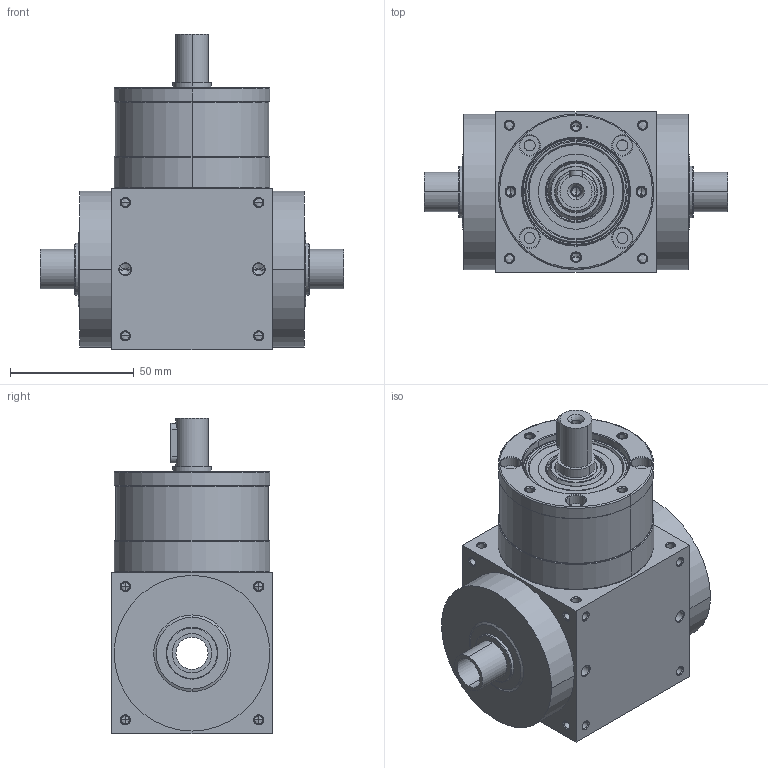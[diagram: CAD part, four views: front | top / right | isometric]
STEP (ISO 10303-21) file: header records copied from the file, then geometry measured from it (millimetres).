
FILE_DESCRIPTION((''),'2;1');
FILE_NAME('ATB065C-1_ASM','2014-07-18T',('D00080'),(''),'PRO/ENGINEER BY PARAMETRIC TECHNOLOGY CORPORATION, 2008170','PRO/ENGINEER BY PARAMETRIC TECHNOLOGY CORPORATION, 2008170','');
FILE_SCHEMA(('CONFIG_CONTROL_DESIGN'));
Length unit declared in the file: millimetre
Products named in the file (6): ATB065C-1; P1820200001; 22400071002; P0904201001; P1208200001; ATB065C-1_ASM
Assembly tree (5 placements, depth 2):
  ATB065C-1_ASM
    ATB065C-1
    P1820200001
    22400071002
    P0904201001
    P1208200001
Bounding box: 123 x 65 x 127.5 mm (x, y, z)
Volume: 428741.9 mm3; surface area: 72733.8 mm2
Topology: 6 solids, 36 shells, 579 faces, 1419 edges, 840 vertices
Faces by surface type: cylinder 258, cone 208, plane 75, torus 38
Entity records: 17477 total; most frequent: CARTESIAN_POINT 3758, DIRECTION 3085, ORIENTED_EDGE 2592, EDGE_CURVE 1355, AXIS2_PLACEMENT_3D 1300, VERTEX_POINT 840, CIRCLE 702, EDGE_LOOP 684
